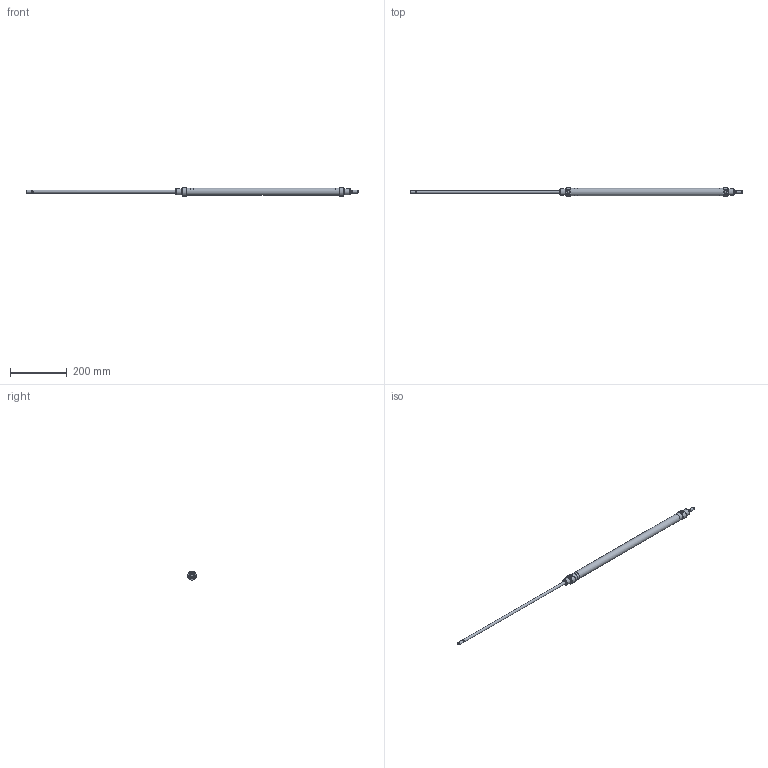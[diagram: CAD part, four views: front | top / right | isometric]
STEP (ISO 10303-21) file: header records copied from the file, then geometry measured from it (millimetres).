
FILE_DESCRIPTION( ( 'STEP AP203' ), '1' );
FILE_NAME( '//expscmdclustefs.cadenas.external/client_exchange/iodir/jobs/output/wkb68465444_no0/STEP/M101-025-0500--__0__2_03.stp', ' ', ( ' ' ), ( ' ' ), 'PSStep 15.0.47', 'PARTsolutions', ' ' );
FILE_SCHEMA( ( 'CONFIG_CONTROL_DESIGN' ) );
Length unit declared in the file: millimetre
Products named in the file (3): M101-025-0500-- [0]; HI_M101-025-0500---[0]-z; HI_M101-025-0500---[0]-k
Assembly tree (2 placements, depth 2):
  M101-025-0500-- [0]
    HI_M101-025-0500---[0]-z
    HI_M101-025-0500---[0]-k
Bounding box: 1169 x 31 x 28.79 mm (x, y, z)
Volume: 174377.9 mm3; surface area: 135233.4 mm2
Topology: 2 solids, 2 shells, 63 faces, 123 edges, 74 vertices
Faces by surface type: plane 28, cylinder 23, cone 10, torus 2
Full cylindrical faces by diameter (mm): 8.16 x2, 8.566 x2, 10 x6, 20.16 x4, 22 x4, 25 x2, 26.6 x1
Entity records: 1700 total; most frequent: CARTESIAN_POINT 390, DIRECTION 276, ORIENTED_EDGE 176, AXIS2_PLACEMENT_3D 124, EDGE_LOOP 112, EDGE_CURVE 88, FACE_OUTER_BOUND 86, VERTEX_POINT 72
